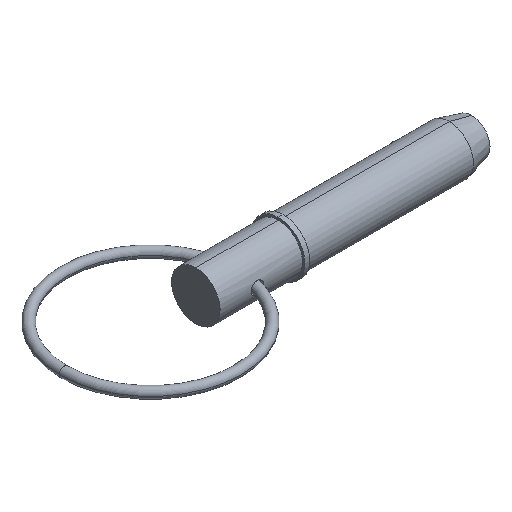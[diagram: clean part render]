
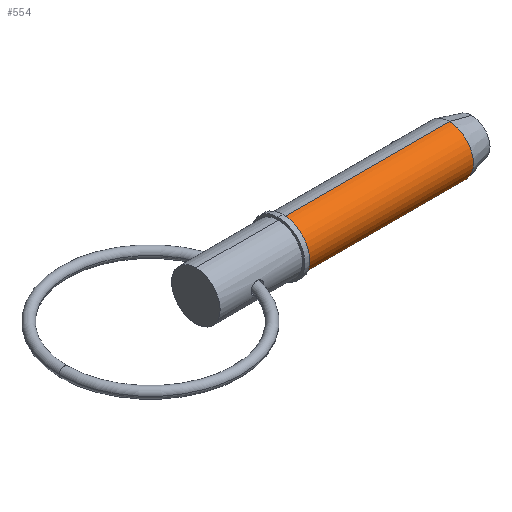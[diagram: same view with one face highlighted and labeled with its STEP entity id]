
A CAD part, isometric view. The second image highlights one B-rep face of the part: STEP entity #554.
In plain terms, the highlighted cylindrical face has radius 7.145 mm (diameter 14.29 mm), a partial arc.
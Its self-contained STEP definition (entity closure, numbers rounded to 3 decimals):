
#35 = CARTESIAN_POINT ( 'NONE',  ( 74.584, 0., -7.145 ) ) ;
#85 = AXIS2_PLACEMENT_3D ( 'NONE', #954, #875, #790 ) ;
#111 = EDGE_LOOP ( 'NONE', ( #464, #258, #223, #393 ) ) ;
#114 = DIRECTION ( 'NONE',  ( 1., 0., 0. ) ) ;
#133 = AXIS2_PLACEMENT_3D ( 'NONE', #438, #914, #507 ) ;
#148 = CIRCLE ( 'NONE', #85, 7.145 ) ;
#203 = LINE ( 'NONE', #594, #829 ) ;
#211 = EDGE_CURVE ( 'NONE', #615, #734, #203, .T. ) ;
#223 = ORIENTED_EDGE ( 'NONE', *, *, #260, .T. ) ;
#240 = VECTOR ( 'NONE', #281, 1000. ) ;
#258 = ORIENTED_EDGE ( 'NONE', *, *, #322, .T. ) ;
#260 = EDGE_CURVE ( 'NONE', #725, #397, #847, .T. ) ;
#266 = CARTESIAN_POINT ( 'NONE',  ( 25.7, 0., -7.145 ) ) ;
#273 = AXIS2_PLACEMENT_3D ( 'NONE', #724, #476, #565 ) ;
#275 = CARTESIAN_POINT ( 'NONE',  ( 74.584, 0., 7.145 ) ) ;
#281 = DIRECTION ( 'NONE',  ( 1., 0., 0. ) ) ;
#322 = EDGE_CURVE ( 'NONE', #615, #725, #931, .T. ) ;
#393 = ORIENTED_EDGE ( 'NONE', *, *, #955, .F. ) ;
#397 = VERTEX_POINT ( 'NONE', #35 ) ;
#438 = CARTESIAN_POINT ( 'NONE',  ( 25.7, 0., 0. ) ) ;
#464 = ORIENTED_EDGE ( 'NONE', *, *, #211, .F. ) ;
#476 = DIRECTION ( 'NONE',  ( 1., 0., 0. ) ) ;
#488 = FACE_OUTER_BOUND ( 'NONE', #111, .T. ) ;
#507 = DIRECTION ( 'NONE',  ( 0., 0., -1. ) ) ;
#554 = ADVANCED_FACE ( 'NONE', ( #488 ), #1051, .T. ) ;
#563 = CARTESIAN_POINT ( 'NONE',  ( 25.7, 0., 7.145 ) ) ;
#565 = DIRECTION ( 'NONE',  ( 0., 0., -1. ) ) ;
#583 = CARTESIAN_POINT ( 'NONE',  ( 0., 0., -7.145 ) ) ;
#594 = CARTESIAN_POINT ( 'NONE',  ( 0., 0., 7.145 ) ) ;
#615 = VERTEX_POINT ( 'NONE', #563 ) ;
#724 = CARTESIAN_POINT ( 'NONE',  ( 0., 0., 0. ) ) ;
#725 = VERTEX_POINT ( 'NONE', #266 ) ;
#734 = VERTEX_POINT ( 'NONE', #275 ) ;
#790 = DIRECTION ( 'NONE',  ( 0., 0., -1. ) ) ;
#829 = VECTOR ( 'NONE', #114, 1000. ) ;
#847 = LINE ( 'NONE', #583, #240 ) ;
#875 = DIRECTION ( 'NONE',  ( 1., 0., 0. ) ) ;
#914 = DIRECTION ( 'NONE',  ( 1., 0., 0. ) ) ;
#931 = CIRCLE ( 'NONE', #133, 7.145 ) ;
#954 = CARTESIAN_POINT ( 'NONE',  ( 74.584, 0., 0. ) ) ;
#955 = EDGE_CURVE ( 'NONE', #734, #397, #148, .T. ) ;
#1051 = CYLINDRICAL_SURFACE ( 'NONE', #273, 7.145 ) ;
